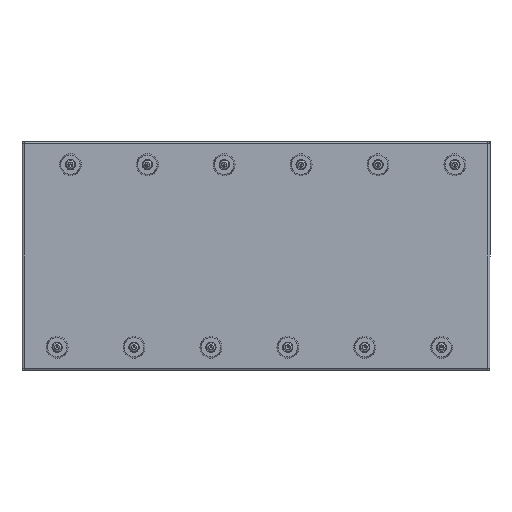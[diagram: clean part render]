
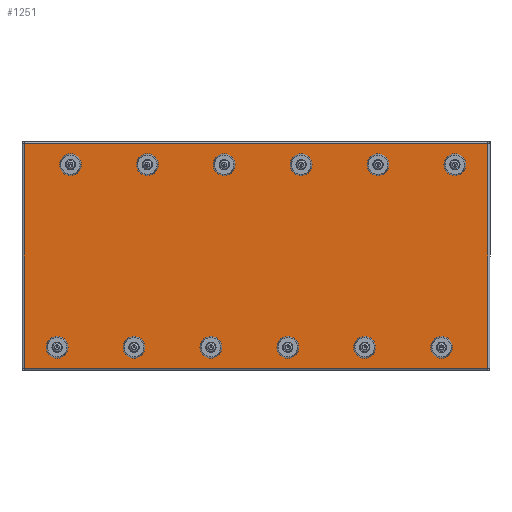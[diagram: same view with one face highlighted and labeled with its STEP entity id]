
A CAD part, front view. The second image highlights one B-rep face of the part: STEP entity #1251.
In plain terms, the highlighted planar face has unit normal (0, -1, 0) as drawn and (0, 0, -1) by its records, which use the part's own axes.
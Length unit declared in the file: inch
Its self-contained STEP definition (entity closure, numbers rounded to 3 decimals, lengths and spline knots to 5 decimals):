
#169=CARTESIAN_POINT('',(4.8015,0.8125,-0.09));
#170=VERTEX_POINT('',#169);
#171=CARTESIAN_POINT('',(4.89,0.8125,-0.09));
#172=DIRECTION('',(0.0,0.0,1.0));
#173=DIRECTION('',(1.0,0.0,0.0));
#174=AXIS2_PLACEMENT_3D('',#171,#172,#173);
#175=CIRCLE('',#174,0.0885);
#176=EDGE_CURVE('',#170,#170,#175,.T.);
#197=CARTESIAN_POINT('',(10.8015,0.8125,-0.09));
#198=VERTEX_POINT('',#197);
#199=CARTESIAN_POINT('',(10.89,0.8125,-0.09));
#200=DIRECTION('',(0.0,0.0,1.0));
#201=DIRECTION('',(1.0,0.0,0.0));
#202=AXIS2_PLACEMENT_3D('',#199,#200,#201);
#203=CIRCLE('',#202,0.0885);
#204=EDGE_CURVE('',#198,#198,#203,.T.);
#225=CARTESIAN_POINT('',(16.2815,7.9375,-0.09));
#226=VERTEX_POINT('',#225);
#227=CARTESIAN_POINT('',(16.37,7.9375,-0.09));
#228=DIRECTION('',(0.0,0.0,1.0));
#229=DIRECTION('',(1.0,0.0,0.0));
#230=AXIS2_PLACEMENT_3D('',#227,#228,#229);
#231=CIRCLE('',#230,0.0885);
#232=EDGE_CURVE('',#226,#226,#231,.T.);
#253=CARTESIAN_POINT('',(10.2815,7.9375,-0.09));
#254=VERTEX_POINT('',#253);
#255=CARTESIAN_POINT('',(10.37,7.9375,-0.09));
#256=DIRECTION('',(0.0,0.0,1.0));
#257=DIRECTION('',(1.0,0.0,0.0));
#258=AXIS2_PLACEMENT_3D('',#255,#256,#257);
#259=CIRCLE('',#258,0.0885);
#260=EDGE_CURVE('',#254,#254,#259,.T.);
#281=CARTESIAN_POINT('',(4.2815,7.9375,-0.09));
#282=VERTEX_POINT('',#281);
#283=CARTESIAN_POINT('',(4.37,7.9375,-0.09));
#284=DIRECTION('',(0.0,0.0,1.0));
#285=DIRECTION('',(1.0,0.0,0.0));
#286=AXIS2_PLACEMENT_3D('',#283,#284,#285);
#287=CIRCLE('',#286,0.0885);
#288=EDGE_CURVE('',#282,#282,#287,.T.);
#309=CARTESIAN_POINT('',(16.8015,0.8125,-0.09));
#310=VERTEX_POINT('',#309);
#311=CARTESIAN_POINT('',(16.89,0.8125,-0.09));
#312=DIRECTION('',(0.0,0.0,1.0));
#313=DIRECTION('',(1.0,0.0,0.0));
#314=AXIS2_PLACEMENT_3D('',#311,#312,#313);
#315=CIRCLE('',#314,0.0885);
#316=EDGE_CURVE('',#310,#310,#315,.T.);
#337=CARTESIAN_POINT('',(1.2815,7.9375,-0.09));
#338=VERTEX_POINT('',#337);
#339=CARTESIAN_POINT('',(1.37,7.9375,-0.09));
#340=DIRECTION('',(0.0,0.0,1.0));
#341=DIRECTION('',(1.0,0.0,0.0));
#342=AXIS2_PLACEMENT_3D('',#339,#340,#341);
#343=CIRCLE('',#342,0.0885);
#344=EDGE_CURVE('',#338,#338,#343,.T.);
#365=CARTESIAN_POINT('',(7.2815,7.9375,-0.09));
#366=VERTEX_POINT('',#365);
#367=CARTESIAN_POINT('',(7.37,7.9375,-0.09));
#368=DIRECTION('',(0.0,0.0,1.0));
#369=DIRECTION('',(1.0,0.0,0.0));
#370=AXIS2_PLACEMENT_3D('',#367,#368,#369);
#371=CIRCLE('',#370,0.0885);
#372=EDGE_CURVE('',#366,#366,#371,.T.);
#393=CARTESIAN_POINT('',(13.2815,7.9375,-0.09));
#394=VERTEX_POINT('',#393);
#395=CARTESIAN_POINT('',(13.37,7.9375,-0.09));
#396=DIRECTION('',(0.0,0.0,1.0));
#397=DIRECTION('',(1.0,0.0,0.0));
#398=AXIS2_PLACEMENT_3D('',#395,#396,#397);
#399=CIRCLE('',#398,0.0885);
#400=EDGE_CURVE('',#394,#394,#399,.T.);
#421=CARTESIAN_POINT('',(13.8015,0.8125,-0.09));
#422=VERTEX_POINT('',#421);
#423=CARTESIAN_POINT('',(13.89,0.8125,-0.09));
#424=DIRECTION('',(0.0,0.0,1.0));
#425=DIRECTION('',(1.0,0.0,0.0));
#426=AXIS2_PLACEMENT_3D('',#423,#424,#425);
#427=CIRCLE('',#426,0.0885);
#428=EDGE_CURVE('',#422,#422,#427,.T.);
#449=CARTESIAN_POINT('',(7.8015,0.8125,-0.09));
#450=VERTEX_POINT('',#449);
#451=CARTESIAN_POINT('',(7.89,0.8125,-0.09));
#452=DIRECTION('',(0.0,0.0,1.0));
#453=DIRECTION('',(1.0,0.0,0.0));
#454=AXIS2_PLACEMENT_3D('',#451,#452,#453);
#455=CIRCLE('',#454,0.0885);
#456=EDGE_CURVE('',#450,#450,#455,.T.);
#477=CARTESIAN_POINT('',(1.8015,0.8125,-0.09));
#478=VERTEX_POINT('',#477);
#479=CARTESIAN_POINT('',(1.89,0.8125,-0.09));
#480=DIRECTION('',(0.0,0.0,1.0));
#481=DIRECTION('',(1.0,0.0,0.0));
#482=AXIS2_PLACEMENT_3D('',#479,#480,#481);
#483=CIRCLE('',#482,0.0885);
#484=EDGE_CURVE('',#478,#478,#483,.T.);
#515=CARTESIAN_POINT('',(0.091,8.749,-0.09));
#516=VERTEX_POINT('',#515);
#524=CARTESIAN_POINT('',(0.091,0.001,-0.09));
#525=VERTEX_POINT('',#524);
#526=CARTESIAN_POINT('',(0.091,0.001,-0.09));
#527=DIRECTION('',(0.0,1.0,0.0));
#528=VECTOR('',#527,8.748);
#529=LINE('',#526,#528);
#530=EDGE_CURVE('',#525,#516,#529,.T.);
#822=CARTESIAN_POINT('',(18.169,0.001,-0.09));
#823=VERTEX_POINT('',#822);
#824=CARTESIAN_POINT('',(18.169,0.001,-0.09));
#825=DIRECTION('',(-1.0,0.0,0.0));
#826=VECTOR('',#825,18.078);
#827=LINE('',#824,#826);
#828=EDGE_CURVE('',#823,#525,#827,.T.);
#930=CARTESIAN_POINT('',(18.169,8.749,-0.09));
#931=VERTEX_POINT('',#930);
#932=CARTESIAN_POINT('',(18.169,8.749,-0.09));
#933=DIRECTION('',(0.0,-1.0,0.0));
#934=VECTOR('',#933,8.748);
#935=LINE('',#932,#934);
#936=EDGE_CURVE('',#931,#823,#935,.T.);
#1178=CARTESIAN_POINT('',(0.091,8.749,-0.09));
#1179=DIRECTION('',(1.0,0.0,0.0));
#1180=VECTOR('',#1179,18.078);
#1181=LINE('',#1178,#1180);
#1182=EDGE_CURVE('',#516,#931,#1181,.T.);
#1204=CARTESIAN_POINT('',(9.13,4.375,-0.09));
#1205=DIRECTION('',(0.0,0.0,1.0));
#1206=DIRECTION('',(1.0,0.0,0.0));
#1207=AXIS2_PLACEMENT_3D('',#1204,#1205,#1206);
#1208=PLANE('',#1207);
#1209=ORIENTED_EDGE('',*,*,#530,.T.);
#1210=ORIENTED_EDGE('',*,*,#1182,.T.);
#1211=ORIENTED_EDGE('',*,*,#936,.T.);
#1212=ORIENTED_EDGE('',*,*,#828,.T.);
#1213=EDGE_LOOP('',(#1209,#1210,#1211,#1212));
#1214=FACE_OUTER_BOUND('',#1213,.T.);
#1215=ORIENTED_EDGE('',*,*,#176,.T.);
#1216=EDGE_LOOP('',(#1215));
#1217=FACE_BOUND('',#1216,.T.);
#1218=ORIENTED_EDGE('',*,*,#204,.T.);
#1219=EDGE_LOOP('',(#1218));
#1220=FACE_BOUND('',#1219,.T.);
#1221=ORIENTED_EDGE('',*,*,#232,.T.);
#1222=EDGE_LOOP('',(#1221));
#1223=FACE_BOUND('',#1222,.T.);
#1224=ORIENTED_EDGE('',*,*,#260,.T.);
#1225=EDGE_LOOP('',(#1224));
#1226=FACE_BOUND('',#1225,.T.);
#1227=ORIENTED_EDGE('',*,*,#288,.T.);
#1228=EDGE_LOOP('',(#1227));
#1229=FACE_BOUND('',#1228,.T.);
#1230=ORIENTED_EDGE('',*,*,#316,.T.);
#1231=EDGE_LOOP('',(#1230));
#1232=FACE_BOUND('',#1231,.T.);
#1233=ORIENTED_EDGE('',*,*,#344,.T.);
#1234=EDGE_LOOP('',(#1233));
#1235=FACE_BOUND('',#1234,.T.);
#1236=ORIENTED_EDGE('',*,*,#372,.T.);
#1237=EDGE_LOOP('',(#1236));
#1238=FACE_BOUND('',#1237,.T.);
#1239=ORIENTED_EDGE('',*,*,#400,.T.);
#1240=EDGE_LOOP('',(#1239));
#1241=FACE_BOUND('',#1240,.T.);
#1242=ORIENTED_EDGE('',*,*,#428,.T.);
#1243=EDGE_LOOP('',(#1242));
#1244=FACE_BOUND('',#1243,.T.);
#1245=ORIENTED_EDGE('',*,*,#456,.T.);
#1246=EDGE_LOOP('',(#1245));
#1247=FACE_BOUND('',#1246,.T.);
#1248=ORIENTED_EDGE('',*,*,#484,.T.);
#1249=EDGE_LOOP('',(#1248));
#1250=FACE_BOUND('',#1249,.T.);
#1251=ADVANCED_FACE('',(#1214,#1217,#1220,#1223,#1226,#1229,#1232,#1235,#1238,#1241,#1244,#1247,#1250),#1208,.F.);
